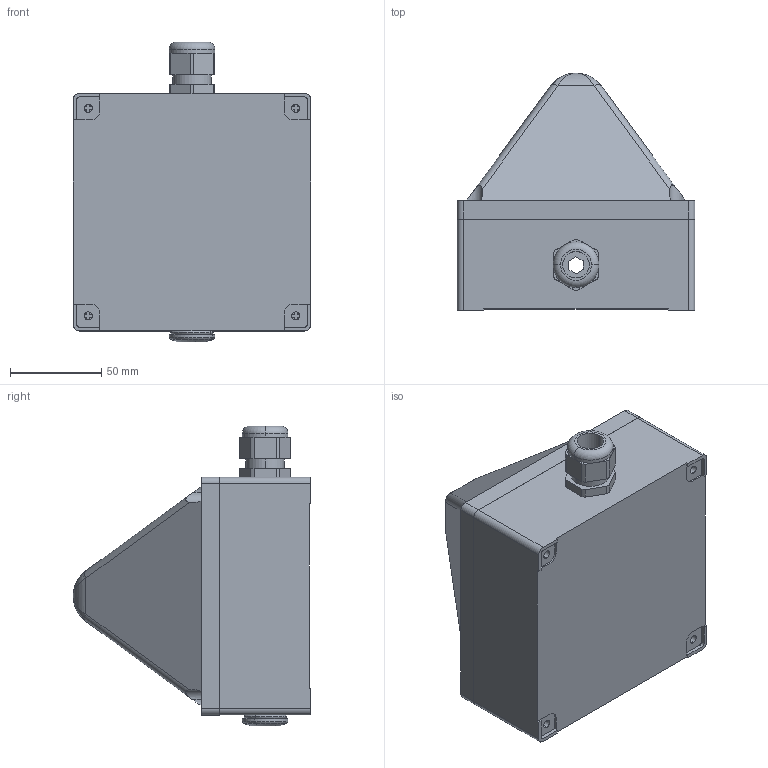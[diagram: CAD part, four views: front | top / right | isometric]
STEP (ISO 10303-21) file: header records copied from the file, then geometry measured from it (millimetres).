
FILE_DESCRIPTION (( 'STEP AP214' ), '1' );
FILE_NAME ('30084-103.STEP', '2011-06-01T11:54:13', ( ' ' ), ( ' ' ), 'SwSTEP 2.0', 'SolidWorks 2011', '' );
FILE_SCHEMA (( 'AUTOMOTIVE_DESIGN' ));
Length unit declared in the file: millimetre
Products named in the file (1): 30084-103
Bounding box: 130.09 x 130 x 164 mm (x, y, z)
Surface area: 83159.9 mm2 (no closed solid volume)
Topology: 0 solids, 10 shells, 230 faces, 764 edges, 543 vertices
Faces by surface type: plane 132, cylinder 74, cone 10, torus 8, bspline 6
Entity records: 11170 total; most frequent: CARTESIAN_POINT 1972, DIRECTION 1384, ORIENTED_EDGE 1288, EDGE_CURVE 760, VERTEX_POINT 543, LINE 526, VECTOR 526, AXIS2_PLACEMENT_3D 429
